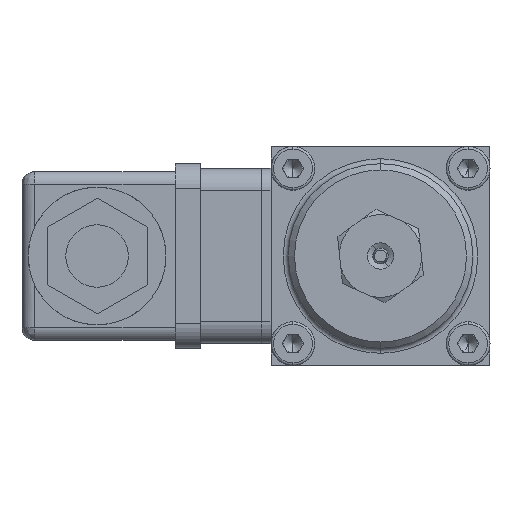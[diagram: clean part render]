
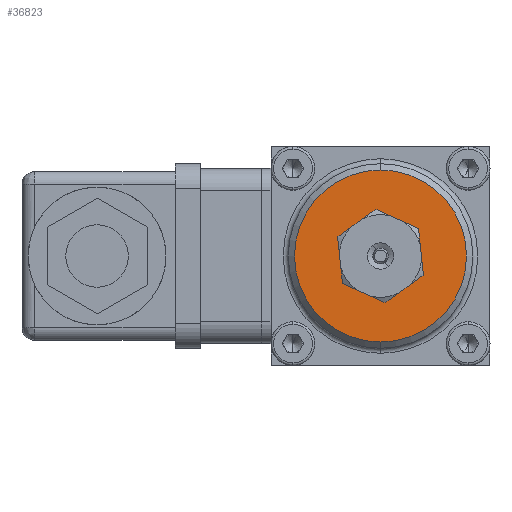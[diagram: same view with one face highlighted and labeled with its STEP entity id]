
A CAD part, left-side view. The second image highlights one B-rep face of the part: STEP entity #36823.
In plain terms, the highlighted planar face has unit normal (-1, 0, 0).
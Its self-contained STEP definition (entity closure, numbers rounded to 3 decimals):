
#29 = DIRECTION ( 'NONE',  ( 0., 0.589, 0.808 ) ) ;
#536 = VECTOR ( 'NONE', #39037, 1000. ) ;
#848 = CARTESIAN_POINT ( 'NONE',  ( -80.2, 0., -13.75 ) ) ;
#955 = DIRECTION ( 'NONE',  ( 0., 0.589, 0.808 ) ) ;
#1253 = CARTESIAN_POINT ( 'NONE',  ( -80.2, 0.383, 7.28 ) ) ;
#1662 = EDGE_CURVE ( 'NONE', #28796, #8392, #31930, .T. ) ;
#1663 = EDGE_LOOP ( 'NONE', ( #10941, #37374 ) ) ;
#2031 = EDGE_CURVE ( 'NONE', #37614, #15778, #18076, .T. ) ;
#2326 = EDGE_CURVE ( 'NONE', #37236, #21313, #4557, .T. ) ;
#4205 = DIRECTION ( 'NONE',  ( -1., 0., 0. ) ) ;
#4272 = CARTESIAN_POINT ( 'NONE',  ( -80.2, 0., 0. ) ) ;
#4376 = CARTESIAN_POINT ( 'NONE',  ( -80.2, 9.162, 1.364 ) ) ;
#4557 = LINE ( 'NONE', #1253, #39189 ) ;
#4573 = VECTOR ( 'NONE', #14928, 1000. ) ;
#4878 = DIRECTION ( 'NONE',  ( 0., 0., 1. ) ) ;
#5128 = DIRECTION ( 'NONE',  ( 0., 0.589, 0.808 ) ) ;
#6065 = LINE ( 'NONE', #7271, #29355 ) ;
#6356 = CARTESIAN_POINT ( 'NONE',  ( -80.2, -6.585, -0.448 ) ) ;
#7058 = AXIS2_PLACEMENT_3D ( 'NONE', #20827, #4205, #29 ) ;
#7073 = EDGE_CURVE ( 'NONE', #20712, #8516, #38092, .T. ) ;
#7271 = CARTESIAN_POINT ( 'NONE',  ( -80.2, 1.503, -9.141 ) ) ;
#7351 = DIRECTION ( 'NONE',  ( 0., 0.914, 0.405 ) ) ;
#7998 = ORIENTED_EDGE ( 'NONE', *, *, #16165, .F. ) ;
#8392 = VERTEX_POINT ( 'NONE', #17941 ) ;
#8516 = VERTEX_POINT ( 'NONE', #6356 ) ;
#9783 = DIRECTION ( 'NONE',  ( 0., -0.106, -0.994 ) ) ;
#10086 = CARTESIAN_POINT ( 'NONE',  ( -80.2, -6.814, -2.591 ) ) ;
#10186 = DIRECTION ( 'NONE',  ( 0., -0.808, 0.589 ) ) ;
#10818 = EDGE_CURVE ( 'NONE', #37948, #13210, #26303, .T. ) ;
#10842 = AXIS2_PLACEMENT_3D ( 'NONE', #4272, #14347, #4878 ) ;
#10941 = ORIENTED_EDGE ( 'NONE', *, *, #36462, .T. ) ;
#11370 = EDGE_CURVE ( 'NONE', #15778, #32811, #29405, .T. ) ;
#11524 = CARTESIAN_POINT ( 'NONE',  ( -80.2, 0., 0. ) ) ;
#11689 = DIRECTION ( 'NONE',  ( -1., 0., 0. ) ) ;
#11749 = CARTESIAN_POINT ( 'NONE',  ( -80.2, 0., 0. ) ) ;
#12141 = AXIS2_PLACEMENT_3D ( 'NONE', #34707, #16626, #38004 ) ;
#13013 = VERTEX_POINT ( 'NONE', #33666 ) ;
#13210 = VERTEX_POINT ( 'NONE', #29818 ) ;
#13438 = CARTESIAN_POINT ( 'NONE',  ( -80.2, 0., 0. ) ) ;
#13715 = ORIENTED_EDGE ( 'NONE', *, *, #2326, .F. ) ;
#13868 = CARTESIAN_POINT ( 'NONE',  ( -80.2, 3.68, -5.479 ) ) ;
#14347 = DIRECTION ( 'NONE',  ( -1., 0., 0. ) ) ;
#14584 = DIRECTION ( 'NONE',  ( -1., 0., 0. ) ) ;
#14716 = ORIENTED_EDGE ( 'NONE', *, *, #37231, .F. ) ;
#14928 = DIRECTION ( 'NONE',  ( 0., 0.106, 0.994 ) ) ;
#15154 = CARTESIAN_POINT ( 'NONE',  ( -80.2, 1.587, -6.406 ) ) ;
#15253 = ORIENTED_EDGE ( 'NONE', *, *, #7073, .F. ) ;
#15277 = DIRECTION ( 'NONE',  ( 0., 0.589, 0.808 ) ) ;
#15778 = VERTEX_POINT ( 'NONE', #25707 ) ;
#15797 = EDGE_CURVE ( 'NONE', #8392, #20712, #6065, .T. ) ;
#16165 = EDGE_CURVE ( 'NONE', #13210, #37614, #26905, .T. ) ;
#16425 = ORIENTED_EDGE ( 'NONE', *, *, #15797, .F. ) ;
#16626 = DIRECTION ( 'NONE',  ( -1., 0., 0. ) ) ;
#16843 = ORIENTED_EDGE ( 'NONE', *, *, #39026, .F. ) ;
#16907 = VECTOR ( 'NONE', #26180, 1000. ) ;
#17754 = EDGE_CURVE ( 'NONE', #34193, #37641, #35122, .T. ) ;
#17941 = CARTESIAN_POINT ( 'NONE',  ( -80.2, -2.905, -5.926 ) ) ;
#18001 = DIRECTION ( 'NONE',  ( 0., 0.589, 0.808 ) ) ;
#18076 = LINE ( 'NONE', #37145, #23935 ) ;
#18320 = DIRECTION ( 'NONE',  ( -1., 0., 0. ) ) ;
#18620 = CIRCLE ( 'NONE', #35024, 13.75 ) ;
#18971 = ORIENTED_EDGE ( 'NONE', *, *, #11370, .F. ) ;
#19124 = AXIS2_PLACEMENT_3D ( 'NONE', #11524, #14584, #32768 ) ;
#19456 = CARTESIAN_POINT ( 'NONE',  ( -80.2, -4.754, -4.578 ) ) ;
#20414 = ORIENTED_EDGE ( 'NONE', *, *, #20471, .F. ) ;
#20471 = EDGE_CURVE ( 'NONE', #21313, #37948, #20550, .T. ) ;
#20550 = CIRCLE ( 'NONE', #22506, 6.6 ) ;
#20642 = DIRECTION ( 'NONE',  ( -1., 0., 0. ) ) ;
#20712 = VERTEX_POINT ( 'NONE', #19456 ) ;
#20827 = CARTESIAN_POINT ( 'NONE',  ( -80.2, 0., 0. ) ) ;
#21013 = FACE_OUTER_BOUND ( 'NONE', #1663, .T. ) ;
#21313 = VERTEX_POINT ( 'NONE', #27396 ) ;
#22506 = AXIS2_PLACEMENT_3D ( 'NONE', #11749, #18320, #955 ) ;
#23865 = CARTESIAN_POINT ( 'NONE',  ( -80.2, 0., 0. ) ) ;
#23935 = VECTOR ( 'NONE', #9783, 1000. ) ;
#25707 = CARTESIAN_POINT ( 'NONE',  ( -80.2, 6.342, -1.829 ) ) ;
#26180 = DIRECTION ( 'NONE',  ( 0., 0.808, -0.589 ) ) ;
#26303 = LINE ( 'NONE', #4376, #16907 ) ;
#26349 = CARTESIAN_POINT ( 'NONE',  ( -80.2, 0., 0. ) ) ;
#26905 = CIRCLE ( 'NONE', #34086, 6.6 ) ;
#27396 = CARTESIAN_POINT ( 'NONE',  ( -80.2, -1.587, 6.406 ) ) ;
#28661 = ORIENTED_EDGE ( 'NONE', *, *, #36938, .F. ) ;
#28796 = VERTEX_POINT ( 'NONE', #15154 ) ;
#29197 = ORIENTED_EDGE ( 'NONE', *, *, #2031, .F. ) ;
#29355 = VECTOR ( 'NONE', #10186, 1000. ) ;
#29405 = CIRCLE ( 'NONE', #38873, 6.6 ) ;
#29818 = CARTESIAN_POINT ( 'NONE',  ( -80.2, 4.754, 4.578 ) ) ;
#29972 = FACE_BOUND ( 'NONE', #38940, .T. ) ;
#29978 = CIRCLE ( 'NONE', #19124, 6.6 ) ;
#30792 = CARTESIAN_POINT ( 'NONE',  ( -80.2, 6.585, 0.448 ) ) ;
#31809 = ORIENTED_EDGE ( 'NONE', *, *, #10818, .F. ) ;
#31843 = LINE ( 'NONE', #32914, #536 ) ;
#31930 = CIRCLE ( 'NONE', #32707, 6.6 ) ;
#32473 = DIRECTION ( 'NONE',  ( -1., 0., 0. ) ) ;
#32487 = DIRECTION ( 'NONE',  ( -1., 0., 0. ) ) ;
#32663 = CARTESIAN_POINT ( 'NONE',  ( -80.2, 0., 13.75 ) ) ;
#32707 = AXIS2_PLACEMENT_3D ( 'NONE', #26349, #32473, #5128 ) ;
#32768 = DIRECTION ( 'NONE',  ( 0., 0.589, 0.808 ) ) ;
#32811 = VERTEX_POINT ( 'NONE', #13868 ) ;
#32868 = DIRECTION ( 'NONE',  ( 0., 0., 1. ) ) ;
#32914 = CARTESIAN_POINT ( 'NONE',  ( -80.2, 5.651, -4.605 ) ) ;
#32959 = CARTESIAN_POINT ( 'NONE',  ( -80.2, 2.905, 5.926 ) ) ;
#33666 = CARTESIAN_POINT ( 'NONE',  ( -80.2, -6.342, 1.829 ) ) ;
#34086 = AXIS2_PLACEMENT_3D ( 'NONE', #39231, #11689, #15277 ) ;
#34193 = VERTEX_POINT ( 'NONE', #32663 ) ;
#34707 = CARTESIAN_POINT ( 'NONE',  ( -80.2, 0., 0. ) ) ;
#35024 = AXIS2_PLACEMENT_3D ( 'NONE', #23865, #32487, #32868 ) ;
#35122 = CIRCLE ( 'NONE', #12141, 13.75 ) ;
#35856 = LINE ( 'NONE', #10086, #4573 ) ;
#36462 = EDGE_CURVE ( 'NONE', #37641, #34193, #18620, .T. ) ;
#36562 = CARTESIAN_POINT ( 'NONE',  ( -80.2, -3.68, 5.479 ) ) ;
#36823 = ADVANCED_FACE ( 'NONE', ( #29972, #21013 ), #38136, .T. ) ;
#36938 = EDGE_CURVE ( 'NONE', #32811, #28796, #31843, .T. ) ;
#37145 = CARTESIAN_POINT ( 'NONE',  ( -80.2, 6.113, -3.972 ) ) ;
#37231 = EDGE_CURVE ( 'NONE', #8516, #13013, #35856, .T. ) ;
#37236 = VERTEX_POINT ( 'NONE', #36562 ) ;
#37374 = ORIENTED_EDGE ( 'NONE', *, *, #17754, .T. ) ;
#37614 = VERTEX_POINT ( 'NONE', #30792 ) ;
#37641 = VERTEX_POINT ( 'NONE', #848 ) ;
#37948 = VERTEX_POINT ( 'NONE', #32959 ) ;
#38004 = DIRECTION ( 'NONE',  ( 0., 0., 1. ) ) ;
#38092 = CIRCLE ( 'NONE', #7058, 6.6 ) ;
#38136 = PLANE ( 'NONE',  #10842 ) ;
#38840 = ORIENTED_EDGE ( 'NONE', *, *, #1662, .F. ) ;
#38873 = AXIS2_PLACEMENT_3D ( 'NONE', #13438, #20642, #18001 ) ;
#38940 = EDGE_LOOP ( 'NONE', ( #14716, #15253, #16425, #38840, #28661, #18971, #29197, #7998, #31809, #20414, #13715, #16843 ) ) ;
#39026 = EDGE_CURVE ( 'NONE', #13013, #37236, #29978, .T. ) ;
#39037 = DIRECTION ( 'NONE',  ( 0., -0.914, -0.405 ) ) ;
#39189 = VECTOR ( 'NONE', #7351, 1000. ) ;
#39231 = CARTESIAN_POINT ( 'NONE',  ( -80.2, 0., 0. ) ) ;
